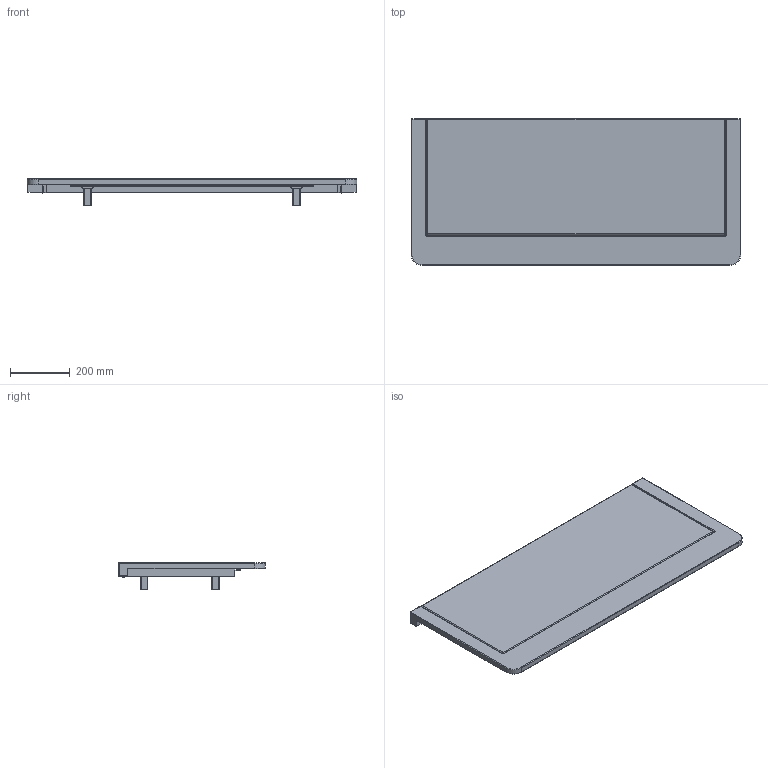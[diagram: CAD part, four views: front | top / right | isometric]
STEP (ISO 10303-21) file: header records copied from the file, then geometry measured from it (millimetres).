
FILE_DESCRIPTION((''),'2;1');
FILE_NAME('3581420002002_3D_SITO','2022-05-24T10:09:10',('pc104'),(''),'CREO PARAMETRIC BY PTC INC, 2021404','CREO PARAMETRIC BY PTC INC, 2021404','');
FILE_SCHEMA(('AUTOMOTIVE_DESIGN { 1 0 10303 214 1 1 1 1 }'));
Length unit declared in the file: millimetre
Products named in the file (1): 3581420002002_3D_SITO
Bounding box: 1102 x 491.5 x 87.5 mm (x, y, z)
Volume: 10282054.9 mm3; surface area: 1395944.8 mm2
Topology: 2 solids, 2 shells, 189 faces, 455 edges, 278 vertices
Faces by surface type: plane 86, cylinder 79, bspline 8, sphere 8, torus 8
Entity records: 10545 total; most frequent: CARTESIAN_POINT 2825, DIRECTION 1008, ORIENTED_EDGE 910, PRESENTATION_STYLE_ASSIGNMENT 553, STYLED_ITEM 478, CURVE_STYLE 476, EDGE_CURVE 455, AXIS2_PLACEMENT_3D 352
